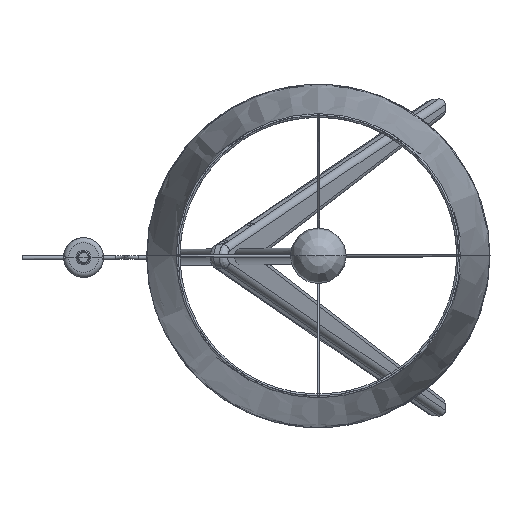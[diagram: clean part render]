
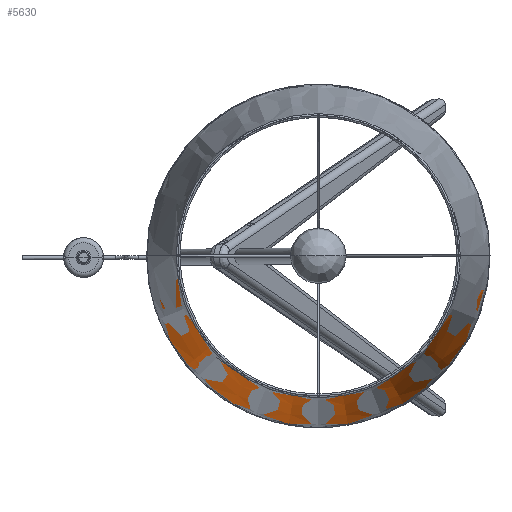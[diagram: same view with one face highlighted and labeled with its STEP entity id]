
A CAD part, top view. The second image highlights one B-rep face of the part: STEP entity #5630.
In plain terms, the highlighted conical face has half-angle 9.021 degrees and reference radius 232.923 mm.
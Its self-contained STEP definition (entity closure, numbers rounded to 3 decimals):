
#277=CONICAL_SURFACE('',#5956,232.923,0.157);
#1279=FACE_OUTER_BOUND('',#1542,.T.);
#1542=EDGE_LOOP('',(#4704,#4705,#4706,#4707));
#1774=LINE('',#9836,#2112);
#1775=LINE('',#9839,#2113);
#2112=VECTOR('',#6516,304.8);
#2113=VECTOR('',#6519,304.8);
#2440=CIRCLE('',#5953,274.428);
#2442=CIRCLE('',#5957,228.312);
#2590=VERTEX_POINT('',#9827);
#2591=VERTEX_POINT('',#9829);
#2592=VERTEX_POINT('',#9835);
#2593=VERTEX_POINT('',#9837);
#3511=EDGE_CURVE('',#2591,#2590,#2440,.T.);
#3514=EDGE_CURVE('',#2592,#2590,#1774,.T.);
#3515=EDGE_CURVE('',#2593,#2592,#2442,.T.);
#3516=EDGE_CURVE('',#2591,#2593,#1775,.T.);
#4704=ORIENTED_EDGE('',*,*,#3511,.T.);
#4705=ORIENTED_EDGE('',*,*,#3514,.F.);
#4706=ORIENTED_EDGE('',*,*,#3515,.F.);
#4707=ORIENTED_EDGE('',*,*,#3516,.F.);
#5630=ADVANCED_FACE('',(#1279),#277,.F.);
#5953=AXIS2_PLACEMENT_3D('',#9830,#6507,#6508);
#5956=AXIS2_PLACEMENT_3D('',#9834,#6514,#6515);
#5957=AXIS2_PLACEMENT_3D('',#9838,#6517,#6518);
#6507=DIRECTION('center_axis',(0.,0.,-1.));
#6508=DIRECTION('ref_axis',(0.809,0.588,0.));
#6514=DIRECTION('center_axis',(0.,0.,
-1.));
#6515=DIRECTION('ref_axis',(0.,-1.,0.));
#6516=DIRECTION('',(-0.157,0.,-0.988));
#6517=DIRECTION('center_axis',(0.,0.,-1.));
#6518=DIRECTION('ref_axis',(0.809,0.588,0.));
#6519=DIRECTION('',(-0.157,0.,0.988));
#9827=CARTESIAN_POINT('',(-274.428,0.,1405.725));
#9829=CARTESIAN_POINT('',(274.428,0.,1405.725));
#9830=CARTESIAN_POINT('Origin',(0.,0.,
1405.725));
#9834=CARTESIAN_POINT('Origin',(0.,0.,
1667.144));
#9835=CARTESIAN_POINT('',(-228.312,0.,1696.191));
#9836=CARTESIAN_POINT('',(-228.312,0.,1696.191));
#9837=CARTESIAN_POINT('',(228.312,0.,1696.191));
#9838=CARTESIAN_POINT('Origin',(0.,0.,
1696.191));
#9839=CARTESIAN_POINT('',(274.428,0.,1405.725));
